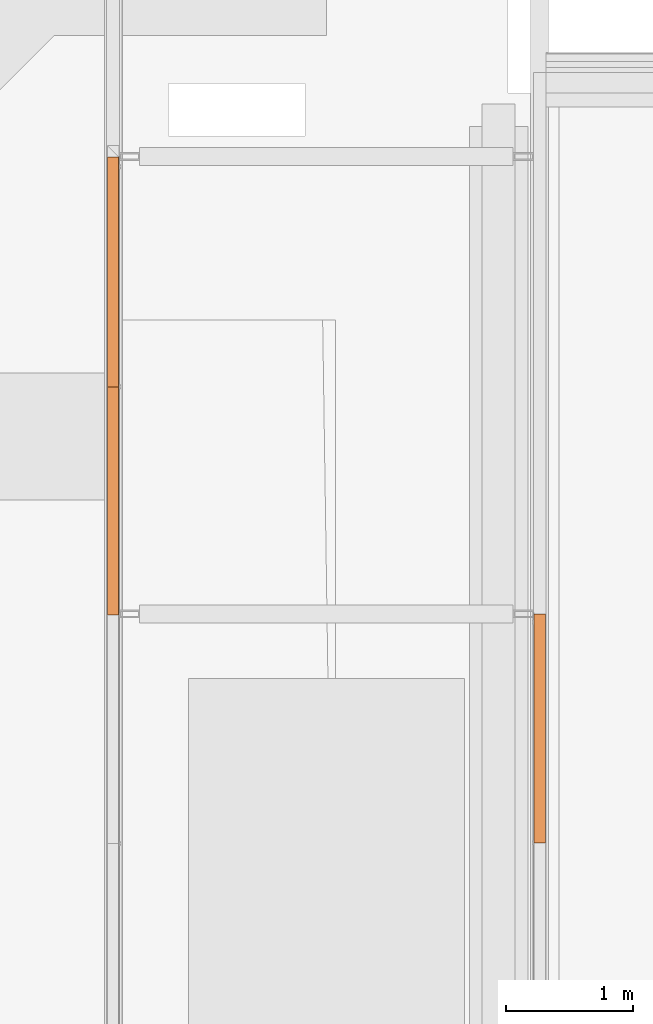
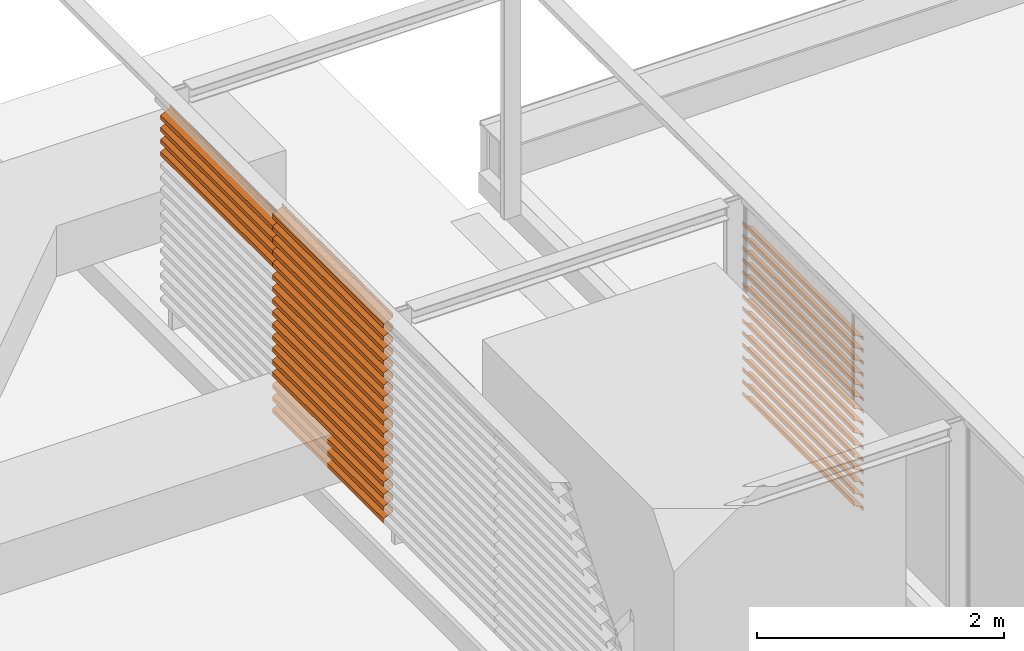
# One storey, part 26 of 32: 36 proxies.
"""IFC2X3 building model written with IfcOpenShell, lengths in millimetres."""

from ifc_helpers import new_model, entity, si_unit, converted_unit, derived_unit, direction, frame, origin, place, context, subcontext, project, spatial, polyline, outline, extrude, type_object, element, save


model = new_model("IFC2X3")

# Units and contexts
model_context = context("Model", 3, precision=0.01, world=origin(), true_north=direction((6.123031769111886e-17, 1.0)))
body_context = subcontext(model_context, "Body", "Model", "MODEL_VIEW")
ifc_project = project(units=[si_unit("LENGTHUNIT", "METRE", prefix="MILLI"), si_unit("AREAUNIT", "SQUARE_METRE"), si_unit("VOLUMEUNIT", "CUBIC_METRE"), converted_unit("PLANEANGLEUNIT", "DEGREE", entity("IfcRatioMeasure", 0.017453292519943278), si_unit("PLANEANGLEUNIT", "RADIAN"), dimensions=[0, 0, 0, 0, 0, 0, 0]), si_unit("MASSUNIT", "GRAM", prefix="KILO"), derived_unit("MASSDENSITYUNIT", [(si_unit("MASSUNIT", "GRAM", prefix="KILO"), 1), (si_unit("LENGTHUNIT", "METRE"), -3)]), derived_unit("IONCONCENTRATIONUNIT", [(si_unit("MASSUNIT", "GRAM", prefix="KILO"), 1), (si_unit("LENGTHUNIT", "METRE"), -3)]), derived_unit("MOMENTOFINERTIAUNIT", [(si_unit("LENGTHUNIT", "METRE"), 4)]), si_unit("TIMEUNIT", "SECOND"), si_unit("FREQUENCYUNIT", "HERTZ"), si_unit("THERMODYNAMICTEMPERATUREUNIT", "DEGREE_CELSIUS"), derived_unit("THERMALTRANSMITTANCEUNIT", [(si_unit("MASSUNIT", "GRAM", prefix="KILO"), 1), (si_unit("THERMODYNAMICTEMPERATUREUNIT", "KELVIN"), -1), (si_unit("TIMEUNIT", "SECOND"), -3)]), derived_unit("THERMALCONDUCTANCEUNIT", [(si_unit("MASSUNIT", "GRAM", prefix="KILO"), 1), (si_unit("THERMODYNAMICTEMPERATUREUNIT", "KELVIN"), -1), (si_unit("TIMEUNIT", "SECOND"), -3), (si_unit("LENGTHUNIT", "METRE"), 1)]), derived_unit("VOLUMETRICFLOWRATEUNIT", [(si_unit("LENGTHUNIT", "METRE"), 3), (si_unit("TIMEUNIT", "SECOND"), -1)]), derived_unit("MASSFLOWRATEUNIT", [(si_unit("MASSUNIT", "GRAM", prefix="KILO"), 1), (si_unit("TIMEUNIT", "SECOND"), -1)]), derived_unit("ROTATIONALFREQUENCYUNIT", [(si_unit("TIMEUNIT", "SECOND"), -1)]), si_unit("ELECTRICCURRENTUNIT", "AMPERE"), si_unit("ELECTRICVOLTAGEUNIT", "VOLT"), si_unit("POWERUNIT", "WATT"), si_unit("FORCEUNIT", "NEWTON", prefix="KILO"), si_unit("ILLUMINANCEUNIT", "LUX"), si_unit("LUMINOUSFLUXUNIT", "LUMEN"), si_unit("LUMINOUSINTENSITYUNIT", "CANDELA"), derived_unit("USERDEFINED", [(si_unit("MASSUNIT", "GRAM", prefix="KILO"), -1), (si_unit("LENGTHUNIT", "METRE"), -2), (si_unit("TIMEUNIT", "SECOND"), 3), (si_unit("LUMINOUSFLUXUNIT", "LUMEN"), 1)]), derived_unit("USERDEFINED", [(si_unit("MASSUNIT", "GRAM", prefix="KILO"), 1), (si_unit("TIMEUNIT", "SECOND"), -3), (si_unit("LENGTHUNIT", "METRE"), 3), (si_unit("ELECTRICCURRENTUNIT", "AMPERE"), -2)]), derived_unit("SOUNDPOWERUNIT", [(si_unit("MASSUNIT", "GRAM", prefix="KILO"), 1), (si_unit("TIMEUNIT", "SECOND"), -3), (si_unit("LENGTHUNIT", "METRE"), 2)]), derived_unit("SOUNDPRESSUREUNIT", [(si_unit("MASSUNIT", "GRAM", prefix="KILO"), 1), (si_unit("LENGTHUNIT", "METRE"), -1), (si_unit("TIMEUNIT", "SECOND"), -2)]), derived_unit("LINEARVELOCITYUNIT", [(si_unit("LENGTHUNIT", "METRE"), 1), (si_unit("TIMEUNIT", "SECOND"), -1)]), si_unit("PRESSUREUNIT", "PASCAL"), derived_unit("USERDEFINED", [(si_unit("MASSUNIT", "GRAM", prefix="KILO"), 1), (si_unit("LENGTHUNIT", "METRE"), -2), (si_unit("TIMEUNIT", "SECOND"), -2)]), derived_unit("LINEARFORCEUNIT", [(si_unit("MASSUNIT", "GRAM", prefix="KILO"), 1), (si_unit("TIMEUNIT", "SECOND"), -2)]), derived_unit("PLANARFORCEUNIT", [(si_unit("MASSUNIT", "GRAM", prefix="KILO"), 1), (si_unit("LENGTHUNIT", "METRE"), -1), (si_unit("TIMEUNIT", "SECOND"), -2)]), derived_unit("SPECIFICHEATCAPACITYUNIT", [(si_unit("THERMODYNAMICTEMPERATUREUNIT", "KELVIN"), -1), (si_unit("LENGTHUNIT", "METRE"), 2), (si_unit("TIMEUNIT", "SECOND"), -2)]), derived_unit("HEATINGVALUEUNIT", [(si_unit("LENGTHUNIT", "METRE"), 2), (si_unit("TIMEUNIT", "SECOND"), -2)]), derived_unit("VAPORPERMEABILITYUNIT", [(si_unit("LENGTHUNIT", "METRE"), -1), (si_unit("TIMEUNIT", "SECOND"), 1)]), derived_unit("DYNAMICVISCOSITYUNIT", [(si_unit("MASSUNIT", "GRAM", prefix="KILO"), 1), (si_unit("TIMEUNIT", "SECOND"), -1), (si_unit("LENGTHUNIT", "METRE"), -1)]), derived_unit("THERMALEXPANSIONCOEFFICIENTUNIT", [(si_unit("THERMODYNAMICTEMPERATUREUNIT", "KELVIN"), -1)]), derived_unit("MODULUSOFELASTICITYUNIT", [(si_unit("MASSUNIT", "GRAM", prefix="KILO"), 1), (si_unit("LENGTHUNIT", "METRE"), -1), (si_unit("TIMEUNIT", "SECOND"), -2)]), derived_unit("ISOTHERMALMOISTURECAPACITYUNIT", [(si_unit("LENGTHUNIT", "METRE"), 3), (si_unit("MASSUNIT", "GRAM", prefix="KILO"), -1)]), derived_unit("MOISTUREDIFFUSIVITYUNIT", [(si_unit("TIMEUNIT", "SECOND"), -1), (si_unit("LENGTHUNIT", "METRE"), 2)])], contexts=[model_context])

# Site, building, storey
site_placement = place(None, frame((0.0, 300.0, 0.0)))
site = spatial("IfcSite", under=ifc_project, at=site_placement, Name="<Kadastrale nummers>", CompositionType="ELEMENT")
building_placement = place(site_placement, origin())
building = spatial("IfcBuilding", under=site, at=building_placement, CompositionType="ELEMENT")
storey_placement = place(building_placement, frame((0.0, 0.0, 7150.000035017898)))
storey = spatial("IfcBuildingStorey", under=building, at=storey_placement, Name="02 tweede verdieping", CompositionType="ELEMENT", Elevation=7150.000035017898)

# Proxies
building_element_proxy_type_1 = type_object("IfcBuildingElementProxyType", Name="6285828", PredefinedType="NOTDEFINED")
proxy_1_placement = place(storey_placement, origin())
element("IfcBuildingElementProxy", 1, at=proxy_1_placement, inside=storey, type_object=building_element_proxy_type_1, Name="6285828", context=body_context, shape_type="SweptSolid", body=[
    extrude(outline(polyline([(20.108860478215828, -45.0), (60.1088604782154, -45.0), (58.75984344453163, -43.0), (21.383000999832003, -43.0), (-19.65207291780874, 45.0), (-59.891139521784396, 45.0), (-59.891139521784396, 43.0), (-20.926213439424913, 43.0), (20.108860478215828, -45.0)])), frame((41723.0, 40797.49999999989, 2240.1088604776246), z_axis=(0.0, 1.0, 0.0), x_axis=(0.0, 0.0, -1.0)), (0.0, 0.0, 1.0), 1802.4999999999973),
])
building_element_proxy_type_2 = type_object("IfcBuildingElementProxyType", Name="6285829", PredefinedType="NOTDEFINED")
proxy_2_placement = place(storey_placement, origin())
element("IfcBuildingElementProxy", 2, at=proxy_2_placement, inside=storey, type_object=building_element_proxy_type_2, Name="6285829", context=body_context, shape_type="SweptSolid", body=[
    extrude(outline(polyline([(20.10886047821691, -45.0), (60.108860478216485, -45.0), (58.75984344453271, -43.0), (21.383000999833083, -43.0), (-19.652072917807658, 45.0), (-59.89113952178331, 45.0), (-59.89113952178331, 43.0), (-20.92621343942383, 43.0), (20.10886047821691, -45.0)])), frame((41723.0, 40797.49999999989, 2120.1088604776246), z_axis=(0.0, 1.0, 0.0), x_axis=(0.0, 0.0, -1.0)), (0.0, 0.0, 1.0), 1802.4999999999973),
])
building_element_proxy_type_3 = type_object("IfcBuildingElementProxyType", Name="6285830", PredefinedType="NOTDEFINED")
proxy_3_placement = place(storey_placement, origin())
element("IfcBuildingElementProxy", 3, at=proxy_3_placement, inside=storey, type_object=building_element_proxy_type_3, Name="6285830", context=body_context, shape_type="SweptSolid", body=[
    extrude(outline(polyline([(20.108860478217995, -45.0), (60.108860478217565, -45.0), (58.7598434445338, -43.0), (21.383000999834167, -43.0), (-19.652072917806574, 45.0), (-59.89113952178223, 45.0), (-59.89113952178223, 43.0), (-20.92621343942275, 43.0), (20.108860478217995, -45.0)])), frame((41723.0, 40797.49999999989, 2000.108860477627), z_axis=(0.0, 1.0, 0.0), x_axis=(0.0, 0.0, -1.0)), (0.0, 0.0, 1.0), 1802.4999999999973),
])
building_element_proxy_type_4 = type_object("IfcBuildingElementProxyType", Name="6285831", PredefinedType="NOTDEFINED")
proxy_4_placement = place(storey_placement, origin())
element("IfcBuildingElementProxy", 4, at=proxy_4_placement, inside=storey, type_object=building_element_proxy_type_4, Name="6285831", context=body_context, shape_type="SweptSolid", body=[
    extrude(outline(polyline([(20.10886047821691, -45.0), (60.108860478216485, -45.0), (58.75984344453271, -43.0), (21.383000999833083, -43.0), (-19.652072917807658, 45.0), (-59.89113952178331, 45.0), (-59.89113952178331, 43.0), (-20.92621343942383, 43.0), (20.10886047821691, -45.0)])), frame((41723.0, 40797.49999999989, 1880.108860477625), z_axis=(0.0, 1.0, 0.0), x_axis=(0.0, 0.0, -1.0)), (0.0, 0.0, 1.0), 1802.4999999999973),
])
building_element_proxy_type_5 = type_object("IfcBuildingElementProxyType", Name="6285832", PredefinedType="NOTDEFINED")
proxy_5_placement = place(storey_placement, origin())
element("IfcBuildingElementProxy", 5, at=proxy_5_placement, inside=storey, type_object=building_element_proxy_type_5, Name="6285832", context=body_context, shape_type="SweptSolid", body=[
    extrude(outline(polyline([(20.10886047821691, -45.0), (60.108860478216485, -45.0), (58.75984344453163, -43.0), (21.383000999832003, -43.0), (-19.65207291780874, 45.0), (-59.891139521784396, 45.0), (-59.891139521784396, 43.0), (-20.92621343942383, 43.0), (20.10886047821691, -45.0)])), frame((41723.0, 40797.49999999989, 1760.1088604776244), z_axis=(0.0, 1.0, 0.0), x_axis=(0.0, 0.0, -1.0)), (0.0, 0.0, 1.0), 1802.4999999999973),
])
building_element_proxy_type_6 = type_object("IfcBuildingElementProxyType", Name="6285833", PredefinedType="NOTDEFINED")
proxy_6_placement = place(storey_placement, origin())
element("IfcBuildingElementProxy", 6, at=proxy_6_placement, inside=storey, type_object=building_element_proxy_type_6, Name="6285833", context=body_context, shape_type="SweptSolid", body=[
    extrude(outline(polyline([(20.10886047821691, -45.0), (60.108860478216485, -45.0), (58.75984344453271, -43.0), (21.383000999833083, -43.0), (-19.652072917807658, 45.0), (-59.89113952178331, 45.0), (-59.89113952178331, 43.0), (-20.92621343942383, 43.0), (20.10886047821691, -45.0)])), frame((41723.0, 40797.49999999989, 1640.1088604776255), z_axis=(0.0, 1.0, 0.0), x_axis=(0.0, 0.0, -1.0)), (0.0, 0.0, 1.0), 1802.4999999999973),
])
building_element_proxy_type_7 = type_object("IfcBuildingElementProxyType", Name="6285834", PredefinedType="NOTDEFINED")
proxy_7_placement = place(storey_placement, origin())
element("IfcBuildingElementProxy", 7, at=proxy_7_placement, inside=storey, type_object=building_element_proxy_type_7, Name="6285834", context=body_context, shape_type="SweptSolid", body=[
    extrude(outline(polyline([(20.108860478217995, -45.0), (60.108860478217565, -45.0), (58.75984344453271, -43.0), (21.383000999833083, -43.0), (-19.652072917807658, 45.0), (-59.89113952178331, 45.0), (-59.89113952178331, 43.0), (-20.92621343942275, 43.0), (20.108860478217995, -45.0)])), frame((41723.0, 40797.49999999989, 1520.1088604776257), z_axis=(0.0, 1.0, 0.0), x_axis=(0.0, 0.0, -1.0)), (0.0, 0.0, 1.0), 1802.4999999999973),
])
building_element_proxy_type_8 = type_object("IfcBuildingElementProxyType", Name="6285835", PredefinedType="NOTDEFINED")
proxy_8_placement = place(storey_placement, origin())
element("IfcBuildingElementProxy", 8, at=proxy_8_placement, inside=storey, type_object=building_element_proxy_type_8, Name="6285835", context=body_context, shape_type="SweptSolid", body=[
    extrude(outline(polyline([(20.108860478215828, -45.0), (60.1088604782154, -45.0), (58.75984344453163, -43.0), (21.383000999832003, -43.0), (-19.65207291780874, 45.0), (-59.891139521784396, 45.0), (-59.891139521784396, 43.0), (-20.926213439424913, 43.0), (20.108860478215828, -45.0)])), frame((41723.0, 40797.49999999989, 1400.1088604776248), z_axis=(0.0, 1.0, 0.0), x_axis=(0.0, 0.0, -1.0)), (0.0, 0.0, 1.0), 1802.4999999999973),
])
building_element_proxy_type_9 = type_object("IfcBuildingElementProxyType", Name="6285836", PredefinedType="NOTDEFINED")
proxy_9_placement = place(storey_placement, origin())
element("IfcBuildingElementProxy", 9, at=proxy_9_placement, inside=storey, type_object=building_element_proxy_type_9, Name="6285836", context=body_context, shape_type="SweptSolid", body=[
    extrude(outline(polyline([(20.10886047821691, -45.0), (60.108860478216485, -45.0), (58.75984344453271, -43.0), (21.383000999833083, -43.0), (-19.652072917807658, 45.0), (-59.89113952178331, 45.0), (-59.89113952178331, 43.0), (-20.92621343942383, 43.0), (20.10886047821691, -45.0)])), frame((41723.0, 40797.49999999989, 1280.108860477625), z_axis=(0.0, 1.0, 0.0), x_axis=(0.0, 0.0, -1.0)), (0.0, 0.0, 1.0), 1802.4999999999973),
])
building_element_proxy_type_10 = type_object("IfcBuildingElementProxyType", Name="6285837", PredefinedType="NOTDEFINED")
proxy_10_placement = place(storey_placement, origin())
element("IfcBuildingElementProxy", 10, at=proxy_10_placement, inside=storey, type_object=building_element_proxy_type_10, Name="6285837", context=body_context, shape_type="SweptSolid", body=[
    extrude(outline(polyline([(20.108860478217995, -45.0), (60.108860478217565, -45.0), (58.75984344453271, -43.0), (21.383000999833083, -43.0), (-19.652072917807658, 45.0), (-59.89113952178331, 45.0), (-59.89113952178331, 43.0), (-20.92621343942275, 43.0), (20.108860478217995, -45.0)])), frame((41723.0, 40797.49999999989, 1160.1088604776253), z_axis=(0.0, 1.0, 0.0), x_axis=(0.0, 0.0, -1.0)), (0.0, 0.0, 1.0), 1802.4999999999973),
])
building_element_proxy_type_11 = type_object("IfcBuildingElementProxyType", Name="6285838", PredefinedType="NOTDEFINED")
proxy_11_placement = place(storey_placement, origin())
element("IfcBuildingElementProxy", 11, at=proxy_11_placement, inside=storey, type_object=building_element_proxy_type_11, Name="6285838", context=body_context, shape_type="SweptSolid", body=[
    extrude(outline(polyline([(20.10886047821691, -45.0), (60.108860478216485, -45.0), (58.75984344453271, -43.0), (21.383000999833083, -43.0), (-19.652072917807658, 45.0), (-59.89113952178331, 45.0), (-59.89113952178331, 43.0), (-20.92621343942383, 43.0), (20.10886047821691, -45.0)])), frame((41723.0, 40797.49999999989, 1040.1088604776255), z_axis=(0.0, 1.0, 0.0), x_axis=(0.0, 0.0, -1.0)), (0.0, 0.0, 1.0), 1802.4999999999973),
])
building_element_proxy_type_12 = type_object("IfcBuildingElementProxyType", Name="6285839", PredefinedType="NOTDEFINED")
proxy_12_placement = place(storey_placement, origin())
element("IfcBuildingElementProxy", 12, at=proxy_12_placement, inside=storey, type_object=building_element_proxy_type_12, Name="6285839", context=body_context, shape_type="SweptSolid", body=[
    extrude(outline(polyline([(20.10886047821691, -45.0), (60.108860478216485, -45.0), (58.75984344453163, -43.0), (21.383000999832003, -43.0), (-19.65207291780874, 45.0), (-59.891139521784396, 45.0), (-59.891139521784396, 43.0), (-20.92621343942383, 43.0), (20.10886047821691, -45.0)])), frame((41723.0, 40797.49999999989, 920.1088604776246), z_axis=(0.0, 1.0, 0.0), x_axis=(0.0, 0.0, -1.0)), (0.0, 0.0, 1.0), 1802.4999999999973),
])
building_element_proxy_type_13 = type_object("IfcBuildingElementProxyType", Name="6285840", PredefinedType="NOTDEFINED")
proxy_13_placement = place(storey_placement, origin())
element("IfcBuildingElementProxy", 13, at=proxy_13_placement, inside=storey, type_object=building_element_proxy_type_13, Name="6285840", context=body_context, shape_type="SweptSolid", body=[
    extrude(outline(polyline([(20.10886047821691, -45.0), (60.108860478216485, -45.0), (58.75984344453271, -43.0), (21.383000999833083, -43.0), (-19.652072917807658, 45.0), (-59.89113952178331, 45.0), (-59.89113952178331, 43.0), (-20.92621343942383, 43.0), (20.10886047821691, -45.0)])), frame((41723.0, 40797.49999999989, 800.108860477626), z_axis=(0.0, 1.0, 0.0), x_axis=(0.0, 0.0, -1.0)), (0.0, 0.0, 1.0), 1802.4999999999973),
])
building_element_proxy_type_14 = type_object("IfcBuildingElementProxyType", Name="6285841", PredefinedType="NOTDEFINED")
proxy_14_placement = place(storey_placement, origin())
element("IfcBuildingElementProxy", 14, at=proxy_14_placement, inside=storey, type_object=building_element_proxy_type_14, Name="6285841", context=body_context, shape_type="SweptSolid", body=[
    extrude(outline(polyline([(20.108860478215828, -45.0), (60.1088604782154, -45.0), (58.75984344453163, -43.0), (21.383000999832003, -43.0), (-19.65207291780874, 45.0), (-59.891139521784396, 45.0), (-59.891139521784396, 43.0), (-20.926213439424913, 43.0), (20.108860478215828, -45.0)])), frame((41723.0, 40797.49999999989, 680.1088604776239), z_axis=(0.0, 1.0, 0.0), x_axis=(0.0, 0.0, -1.0)), (0.0, 0.0, 1.0), 1802.4999999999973),
])
building_element_proxy_type_15 = type_object("IfcBuildingElementProxyType", Name="6285842", PredefinedType="NOTDEFINED")
proxy_15_placement = place(storey_placement, origin())
element("IfcBuildingElementProxy", 15, at=proxy_15_placement, inside=storey, type_object=building_element_proxy_type_15, Name="6285842", context=body_context, shape_type="SweptSolid", body=[
    extrude(outline(polyline([(20.10886047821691, -45.0), (60.108860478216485, -45.0), (58.75984344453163, -43.0), (21.383000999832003, -43.0), (-19.65207291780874, 45.0), (-59.891139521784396, 45.0), (-59.891139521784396, 43.0), (-20.92621343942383, 43.0), (20.10886047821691, -45.0)])), frame((41723.0, 40797.49999999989, 560.1088604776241), z_axis=(0.0, 1.0, 0.0), x_axis=(0.0, 0.0, -1.0)), (0.0, 0.0, 1.0), 1802.4999999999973),
])
building_element_proxy_type_16 = type_object("IfcBuildingElementProxyType", Name="6287126", PredefinedType="NOTDEFINED")
proxy_16_placement = place(storey_placement, origin())
element("IfcBuildingElementProxy", 16, at=proxy_16_placement, inside=storey, type_object=building_element_proxy_type_16, Name="6287126", context=body_context, shape_type="SweptSolid", body=[
    extrude(outline(polyline([(-49.282222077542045, 0.7930049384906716), (-66.18695254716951, -35.45930654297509), (-63.80421773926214, -35.081918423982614), (-48.008081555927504, -1.2069950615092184), (49.08917531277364, -1.2069950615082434), (66.09493969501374, 35.26198434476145), (64.28232412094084, 36.10722086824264), (47.8150347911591, 0.7930049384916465), (-49.282222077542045, 0.7930049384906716)])), frame((38367.0, 44387.49999984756, 2360.108860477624), z_axis=(0.0, -1.0, 0.0), x_axis=(0.9063077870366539, 0.0, 0.4226182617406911)), (0.0, 0.0, -1.0), 1807.5000001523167),
])
building_element_proxy_type_17 = type_object("IfcBuildingElementProxyType", Name="6287127", PredefinedType="NOTDEFINED")
proxy_17_placement = place(storey_placement, origin())
element("IfcBuildingElementProxy", 17, at=proxy_17_placement, inside=storey, type_object=building_element_proxy_type_17, Name="6287127", context=body_context, shape_type="SweptSolid", body=[
    extrude(outline(polyline([(-49.282222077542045, 0.7930049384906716), (-66.18695254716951, -35.45930654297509), (-63.8042177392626, -35.081918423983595), (-48.00808155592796, -1.2069950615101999), (49.089175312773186, -1.2069950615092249), (66.09493969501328, 35.26198434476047), (64.28232412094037, 36.10722086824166), (47.8150347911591, 0.7930049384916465), (-49.282222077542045, 0.7930049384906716)])), frame((38367.0, 44387.49999984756, 2240.1088604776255), z_axis=(0.0, -1.0, 0.0), x_axis=(0.9063077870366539, 0.0, 0.4226182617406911)), (0.0, 0.0, -1.0), 1807.5000001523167),
])
building_element_proxy_type_18 = type_object("IfcBuildingElementProxyType", Name="6287128", PredefinedType="NOTDEFINED")
proxy_18_placement = place(storey_placement, origin())
element("IfcBuildingElementProxy", 18, at=proxy_18_placement, inside=storey, type_object=building_element_proxy_type_18, Name="6287128", context=body_context, shape_type="SweptSolid", body=[
    extrude(outline(polyline([(-49.2822220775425, 0.7930049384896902), (-66.18695254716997, -35.45930654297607), (-63.80421773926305, -35.081918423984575), (-48.00808155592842, -1.2069950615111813), (49.08917531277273, -1.2069950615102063), (66.09493969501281, 35.26198434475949), (64.28232412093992, 36.107220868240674), (47.815034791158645, 0.7930049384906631), (-49.2822220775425, 0.7930049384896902)])), frame((38367.0, 44387.49999984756, 2120.108860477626), z_axis=(0.0, -1.0, 0.0), x_axis=(0.9063077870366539, 0.0, 0.4226182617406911)), (0.0, 0.0, -1.0), 1807.5000001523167),
])
building_element_proxy_type_19 = type_object("IfcBuildingElementProxyType", Name="6287129", PredefinedType="NOTDEFINED")
proxy_19_placement = place(storey_placement, origin())
element("IfcBuildingElementProxy", 19, at=proxy_19_placement, inside=storey, type_object=building_element_proxy_type_19, Name="6287129", context=body_context, shape_type="SweptSolid", body=[
    extrude(outline(polyline([(-49.2822220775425, 0.7930049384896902), (-66.18695254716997, -35.45930654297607), (-63.80421773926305, -35.081918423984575), (-48.00808155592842, -1.2069950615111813), (49.08917531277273, -1.2069950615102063), (66.09493969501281, 35.26198434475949), (64.28232412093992, 36.107220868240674), (47.815034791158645, 0.7930049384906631), (-49.2822220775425, 0.7930049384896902)])), frame((38367.0, 44387.49999984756, 2000.108860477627), z_axis=(0.0, -1.0, 0.0), x_axis=(0.9063077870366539, 0.0, 0.4226182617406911)), (0.0, 0.0, -1.0), 1807.5000001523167),
])
building_element_proxy_type_20 = type_object("IfcBuildingElementProxyType", Name="6287174", PredefinedType="NOTDEFINED")
proxy_20_placement = place(storey_placement, origin())
element("IfcBuildingElementProxy", 20, at=proxy_20_placement, inside=storey, type_object=building_element_proxy_type_20, Name="6287174", context=body_context, shape_type="SweptSolid", body=[
    extrude(outline(polyline([(-49.28222207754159, 0.7930049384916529), (-66.18695254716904, -35.45930654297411), (-63.80421773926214, -35.081918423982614), (-48.008081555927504, -1.2069950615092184), (49.08917531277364, -1.2069950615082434), (66.09493969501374, 35.26198434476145), (64.28232412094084, 36.10722086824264), (47.81503479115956, 0.7930049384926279), (-49.28222207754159, 0.7930049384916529)])), frame((38367.0, 42590.0, 2480.108860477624), z_axis=(0.0, -1.0, 0.0), x_axis=(0.9063077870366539, 0.0, 0.4226182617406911)), (0.0, 0.0, -1.0), 1797.4999998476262),
])
building_element_proxy_type_21 = type_object("IfcBuildingElementProxyType", Name="6287175", PredefinedType="NOTDEFINED")
proxy_21_placement = place(storey_placement, origin())
element("IfcBuildingElementProxy", 21, at=proxy_21_placement, inside=storey, type_object=building_element_proxy_type_21, Name="6287175", context=body_context, shape_type="SweptSolid", body=[
    extrude(outline(polyline([(-49.282222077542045, 0.7930049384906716), (-66.18695254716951, -35.45930654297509), (-63.80421773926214, -35.081918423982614), (-48.008081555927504, -1.2069950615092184), (49.08917531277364, -1.2069950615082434), (66.09493969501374, 35.26198434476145), (64.28232412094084, 36.10722086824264), (47.8150347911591, 0.7930049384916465), (-49.282222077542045, 0.7930049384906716)])), frame((38367.0, 42590.0, 2360.108860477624), z_axis=(0.0, -1.0, 0.0), x_axis=(0.9063077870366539, 0.0, 0.4226182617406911)), (0.0, 0.0, -1.0), 1797.4999998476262),
])
building_element_proxy_type_22 = type_object("IfcBuildingElementProxyType", Name="6287176", PredefinedType="NOTDEFINED")
proxy_22_placement = place(storey_placement, origin())
element("IfcBuildingElementProxy", 22, at=proxy_22_placement, inside=storey, type_object=building_element_proxy_type_22, Name="6287176", context=body_context, shape_type="SweptSolid", body=[
    extrude(outline(polyline([(-49.282222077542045, 0.7930049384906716), (-66.18695254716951, -35.45930654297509), (-63.8042177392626, -35.081918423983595), (-48.00808155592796, -1.2069950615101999), (49.089175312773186, -1.2069950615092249), (66.09493969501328, 35.26198434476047), (64.28232412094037, 36.10722086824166), (47.8150347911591, 0.7930049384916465), (-49.282222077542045, 0.7930049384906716)])), frame((38367.0, 42590.0, 2240.1088604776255), z_axis=(0.0, -1.0, 0.0), x_axis=(0.9063077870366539, 0.0, 0.4226182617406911)), (0.0, 0.0, -1.0), 1797.4999998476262),
])
building_element_proxy_type_23 = type_object("IfcBuildingElementProxyType", Name="6287177", PredefinedType="NOTDEFINED")
proxy_23_placement = place(storey_placement, origin())
element("IfcBuildingElementProxy", 23, at=proxy_23_placement, inside=storey, type_object=building_element_proxy_type_23, Name="6287177", context=body_context, shape_type="SweptSolid", body=[
    extrude(outline(polyline([(-49.2822220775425, 0.7930049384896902), (-66.18695254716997, -35.45930654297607), (-63.80421773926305, -35.081918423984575), (-48.00808155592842, -1.2069950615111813), (49.08917531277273, -1.2069950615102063), (66.09493969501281, 35.26198434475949), (64.28232412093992, 36.107220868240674), (47.815034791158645, 0.7930049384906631), (-49.2822220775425, 0.7930049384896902)])), frame((38367.0, 42590.0, 2120.108860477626), z_axis=(0.0, -1.0, 0.0), x_axis=(0.9063077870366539, 0.0, 0.4226182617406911)), (0.0, 0.0, -1.0), 1797.4999998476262),
])
building_element_proxy_type_24 = type_object("IfcBuildingElementProxyType", Name="6287178", PredefinedType="NOTDEFINED")
proxy_24_placement = place(storey_placement, origin())
element("IfcBuildingElementProxy", 24, at=proxy_24_placement, inside=storey, type_object=building_element_proxy_type_24, Name="6287178", context=body_context, shape_type="SweptSolid", body=[
    extrude(outline(polyline([(-49.2822220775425, 0.7930049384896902), (-66.18695254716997, -35.45930654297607), (-63.80421773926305, -35.081918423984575), (-48.00808155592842, -1.2069950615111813), (49.08917531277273, -1.2069950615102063), (66.09493969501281, 35.26198434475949), (64.28232412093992, 36.107220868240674), (47.815034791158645, 0.7930049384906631), (-49.2822220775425, 0.7930049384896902)])), frame((38367.0, 42590.0, 2000.108860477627), z_axis=(0.0, -1.0, 0.0), x_axis=(0.9063077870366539, 0.0, 0.4226182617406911)), (0.0, 0.0, -1.0), 1797.4999998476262),
])
building_element_proxy_type_25 = type_object("IfcBuildingElementProxyType", Name="6287179", PredefinedType="NOTDEFINED")
proxy_25_placement = place(storey_placement, origin())
element("IfcBuildingElementProxy", 25, at=proxy_25_placement, inside=storey, type_object=building_element_proxy_type_25, Name="6287179", context=body_context, shape_type="SweptSolid", body=[
    extrude(outline(polyline([(-49.282222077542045, 0.7930049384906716), (-66.18695254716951, -35.45930654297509), (-63.8042177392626, -35.081918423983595), (-48.00808155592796, -1.2069950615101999), (49.089175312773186, -1.2069950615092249), (66.09493969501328, 35.26198434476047), (64.28232412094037, 36.10722086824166), (47.8150347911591, 0.7930049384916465), (-49.282222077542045, 0.7930049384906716)])), frame((38367.0, 42590.0, 1880.108860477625), z_axis=(0.0, -1.0, 0.0), x_axis=(0.9063077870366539, 0.0, 0.4226182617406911)), (0.0, 0.0, -1.0), 1797.4999998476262),
])
building_element_proxy_type_26 = type_object("IfcBuildingElementProxyType", Name="6287180", PredefinedType="NOTDEFINED")
proxy_26_placement = place(storey_placement, origin())
element("IfcBuildingElementProxy", 26, at=proxy_26_placement, inside=storey, type_object=building_element_proxy_type_26, Name="6287180", context=body_context, shape_type="SweptSolid", body=[
    extrude(outline(polyline([(-49.282222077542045, 0.7930049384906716), (-66.18695254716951, -35.45930654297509), (-63.80421773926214, -35.081918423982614), (-48.008081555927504, -1.2069950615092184), (49.08917531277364, -1.2069950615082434), (66.09493969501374, 35.26198434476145), (64.28232412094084, 36.10722086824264), (47.8150347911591, 0.7930049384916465), (-49.282222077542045, 0.7930049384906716)])), frame((38367.0, 42590.0, 1760.1088604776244), z_axis=(0.0, -1.0, 0.0), x_axis=(0.9063077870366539, 0.0, 0.4226182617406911)), (0.0, 0.0, -1.0), 1797.4999998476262),
])
building_element_proxy_type_27 = type_object("IfcBuildingElementProxyType", Name="6287181", PredefinedType="NOTDEFINED")
proxy_27_placement = place(storey_placement, origin())
element("IfcBuildingElementProxy", 27, at=proxy_27_placement, inside=storey, type_object=building_element_proxy_type_27, Name="6287181", context=body_context, shape_type="SweptSolid", body=[
    extrude(outline(polyline([(-49.28222207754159, 0.7930049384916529), (-66.18695254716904, -35.45930654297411), (-63.80421773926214, -35.081918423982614), (-48.008081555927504, -1.2069950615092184), (49.08917531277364, -1.2069950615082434), (66.09493969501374, 35.26198434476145), (64.28232412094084, 36.10722086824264), (47.81503479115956, 0.7930049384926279), (-49.28222207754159, 0.7930049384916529)])), frame((38367.0, 42590.0, 1640.1088604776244), z_axis=(0.0, -1.0, 0.0), x_axis=(0.9063077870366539, 0.0, 0.4226182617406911)), (0.0, 0.0, -1.0), 1797.4999998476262),
])
building_element_proxy_type_28 = type_object("IfcBuildingElementProxyType", Name="6287182", PredefinedType="NOTDEFINED")
proxy_28_placement = place(storey_placement, origin())
element("IfcBuildingElementProxy", 28, at=proxy_28_placement, inside=storey, type_object=building_element_proxy_type_28, Name="6287182", context=body_context, shape_type="SweptSolid", body=[
    extrude(outline(polyline([(-49.282222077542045, 0.7930049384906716), (-66.18695254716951, -35.45930654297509), (-63.80421773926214, -35.081918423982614), (-48.008081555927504, -1.2069950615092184), (49.08917531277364, -1.2069950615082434), (66.09493969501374, 35.26198434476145), (64.28232412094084, 36.10722086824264), (47.8150347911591, 0.7930049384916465), (-49.282222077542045, 0.7930049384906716)])), frame((38367.0, 42590.0, 1520.1088604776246), z_axis=(0.0, -1.0, 0.0), x_axis=(0.9063077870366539, 0.0, 0.4226182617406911)), (0.0, 0.0, -1.0), 1797.4999998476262),
])
building_element_proxy_type_29 = type_object("IfcBuildingElementProxyType", Name="6287183", PredefinedType="NOTDEFINED")
proxy_29_placement = place(storey_placement, origin())
element("IfcBuildingElementProxy", 29, at=proxy_29_placement, inside=storey, type_object=building_element_proxy_type_29, Name="6287183", context=body_context, shape_type="SweptSolid", body=[
    extrude(outline(polyline([(-49.282222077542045, 0.7930049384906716), (-66.18695254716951, -35.45930654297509), (-63.8042177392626, -35.081918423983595), (-48.00808155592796, -1.2069950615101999), (49.089175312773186, -1.2069950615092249), (66.09493969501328, 35.26198434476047), (64.28232412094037, 36.10722086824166), (47.8150347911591, 0.7930049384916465), (-49.282222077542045, 0.7930049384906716)])), frame((38367.0, 42590.0, 1400.108860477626), z_axis=(0.0, -1.0, 0.0), x_axis=(0.9063077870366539, 0.0, 0.4226182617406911)), (0.0, 0.0, -1.0), 1797.4999998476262),
])
building_element_proxy_type_30 = type_object("IfcBuildingElementProxyType", Name="6287184", PredefinedType="NOTDEFINED")
proxy_30_placement = place(storey_placement, origin())
element("IfcBuildingElementProxy", 30, at=proxy_30_placement, inside=storey, type_object=building_element_proxy_type_30, Name="6287184", context=body_context, shape_type="SweptSolid", body=[
    extrude(outline(polyline([(-49.2822220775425, 0.7930049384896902), (-66.18695254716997, -35.45930654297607), (-63.80421773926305, -35.081918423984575), (-48.00808155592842, -1.2069950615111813), (49.08917531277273, -1.2069950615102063), (66.09493969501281, 35.26198434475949), (64.28232412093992, 36.107220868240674), (47.815034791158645, 0.7930049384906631), (-49.2822220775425, 0.7930049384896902)])), frame((38367.0, 42590.0, 1280.1088604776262), z_axis=(0.0, -1.0, 0.0), x_axis=(0.9063077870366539, 0.0, 0.4226182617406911)), (0.0, 0.0, -1.0), 1797.4999998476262),
])
building_element_proxy_type_31 = type_object("IfcBuildingElementProxyType", Name="6287185", PredefinedType="NOTDEFINED")
proxy_31_placement = place(storey_placement, origin())
element("IfcBuildingElementProxy", 31, at=proxy_31_placement, inside=storey, type_object=building_element_proxy_type_31, Name="6287185", context=body_context, shape_type="SweptSolid", body=[
    extrude(outline(polyline([(-49.2822220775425, 0.7930049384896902), (-66.18695254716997, -35.45930654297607), (-63.8042177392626, -35.081918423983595), (-48.00808155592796, -1.2069950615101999), (49.089175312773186, -1.2069950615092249), (66.09493969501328, 35.26198434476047), (64.28232412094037, 36.10722086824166), (47.815034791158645, 0.7930049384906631), (-49.2822220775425, 0.7930049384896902)])), frame((38367.0, 42590.0, 1160.1088604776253), z_axis=(0.0, -1.0, 0.0), x_axis=(0.9063077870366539, 0.0, 0.4226182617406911)), (0.0, 0.0, -1.0), 1797.4999998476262),
])
building_element_proxy_type_32 = type_object("IfcBuildingElementProxyType", Name="6287186", PredefinedType="NOTDEFINED")
proxy_32_placement = place(storey_placement, origin())
element("IfcBuildingElementProxy", 32, at=proxy_32_placement, inside=storey, type_object=building_element_proxy_type_32, Name="6287186", context=body_context, shape_type="SweptSolid", body=[
    extrude(outline(polyline([(-49.282222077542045, 0.7930049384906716), (-66.18695254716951, -35.45930654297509), (-63.8042177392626, -35.081918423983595), (-48.00808155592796, -1.2069950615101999), (49.089175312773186, -1.2069950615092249), (66.09493969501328, 35.26198434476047), (64.28232412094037, 36.10722086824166), (47.8150347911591, 0.7930049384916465), (-49.282222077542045, 0.7930049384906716)])), frame((38367.0, 42590.0, 1040.1088604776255), z_axis=(0.0, -1.0, 0.0), x_axis=(0.9063077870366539, 0.0, 0.4226182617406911)), (0.0, 0.0, -1.0), 1797.4999998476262),
])
building_element_proxy_type_33 = type_object("IfcBuildingElementProxyType", Name="6287187", PredefinedType="NOTDEFINED")
proxy_33_placement = place(storey_placement, origin())
element("IfcBuildingElementProxy", 33, at=proxy_33_placement, inside=storey, type_object=building_element_proxy_type_33, Name="6287187", context=body_context, shape_type="SweptSolid", body=[
    extrude(outline(polyline([(-49.282222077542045, 0.7930049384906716), (-66.18695254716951, -35.45930654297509), (-63.80421773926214, -35.081918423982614), (-48.008081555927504, -1.2069950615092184), (49.08917531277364, -1.2069950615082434), (66.09493969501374, 35.26198434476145), (64.28232412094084, 36.10722086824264), (47.8150347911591, 0.7930049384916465), (-49.282222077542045, 0.7930049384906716)])), frame((38367.0, 42590.0, 920.1088604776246), z_axis=(0.0, -1.0, 0.0), x_axis=(0.9063077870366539, 0.0, 0.4226182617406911)), (0.0, 0.0, -1.0), 1797.4999998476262),
])
building_element_proxy_type_34 = type_object("IfcBuildingElementProxyType", Name="6287188", PredefinedType="NOTDEFINED")
proxy_34_placement = place(storey_placement, origin())
element("IfcBuildingElementProxy", 34, at=proxy_34_placement, inside=storey, type_object=building_element_proxy_type_34, Name="6287188", context=body_context, shape_type="SweptSolid", body=[
    extrude(outline(polyline([(-49.28222207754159, 0.7930049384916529), (-66.18695254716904, -35.45930654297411), (-63.80421773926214, -35.081918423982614), (-48.008081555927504, -1.2069950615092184), (49.08917531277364, -1.2069950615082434), (66.09493969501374, 35.26198434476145), (64.28232412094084, 36.10722086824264), (47.81503479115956, 0.7930049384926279), (-49.28222207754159, 0.7930049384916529)])), frame((38367.0, 42590.0, 800.1088604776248), z_axis=(0.0, -1.0, 0.0), x_axis=(0.9063077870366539, 0.0, 0.4226182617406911)), (0.0, 0.0, -1.0), 1797.4999998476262),
])
building_element_proxy_type_35 = type_object("IfcBuildingElementProxyType", Name="6287189", PredefinedType="NOTDEFINED")
proxy_35_placement = place(storey_placement, origin())
element("IfcBuildingElementProxy", 35, at=proxy_35_placement, inside=storey, type_object=building_element_proxy_type_35, Name="6287189", context=body_context, shape_type="SweptSolid", body=[
    extrude(outline(polyline([(-49.282222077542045, 0.7930049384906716), (-66.18695254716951, -35.45930654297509), (-63.8042177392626, -35.081918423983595), (-48.00808155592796, -1.2069950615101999), (49.089175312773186, -1.2069950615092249), (66.09493969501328, 35.26198434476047), (64.28232412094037, 36.10722086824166), (47.8150347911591, 0.7930049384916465), (-49.282222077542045, 0.7930049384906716)])), frame((38367.0, 42590.0, 680.1088604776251), z_axis=(0.0, -1.0, 0.0), x_axis=(0.9063077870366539, 0.0, 0.4226182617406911)), (0.0, 0.0, -1.0), 1797.4999998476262),
])
building_element_proxy_type_36 = type_object("IfcBuildingElementProxyType", Name="6287190", PredefinedType="NOTDEFINED")
proxy_36_placement = place(storey_placement, origin())
element("IfcBuildingElementProxy", 36, at=proxy_36_placement, inside=storey, type_object=building_element_proxy_type_36, Name="6287190", context=body_context, shape_type="SweptSolid", body=[
    extrude(outline(polyline([(-49.2822220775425, 0.7930049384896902), (-66.18695254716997, -35.45930654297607), (-63.8042177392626, -35.081918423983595), (-48.00808155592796, -1.2069950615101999), (49.089175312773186, -1.2069950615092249), (66.09493969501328, 35.26198434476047), (64.28232412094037, 36.10722086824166), (47.815034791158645, 0.7930049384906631), (-49.2822220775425, 0.7930049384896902)])), frame((38367.0, 42590.0, 560.1088604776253), z_axis=(0.0, -1.0, 0.0), x_axis=(0.9063077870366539, 0.0, 0.4226182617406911)), (0.0, 0.0, -1.0), 1797.4999998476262),
])

save(model, "model.ifc")
